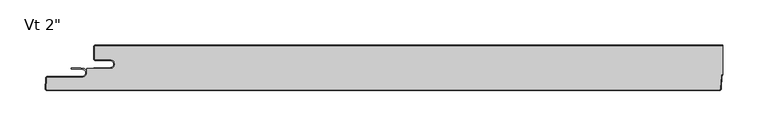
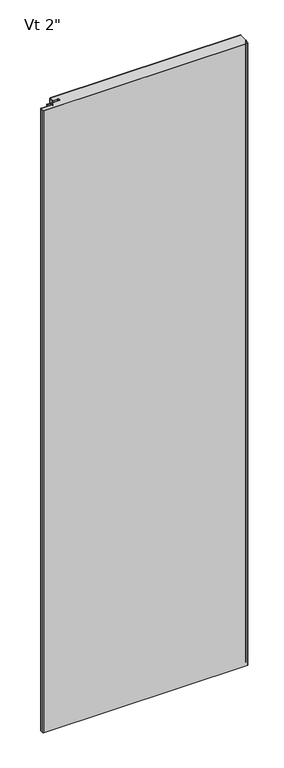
"""IFC4 building model written with IfcOpenShell, lengths in millimetres: plate geometry."""

from ifc_helpers import new_model, si_unit, point, frame_2d, origin, origin_with_axes, place, context, project, spatial, polyline, circle_curve, trimmed, segment, composite_curve, outline, extrude, source, transform, mapped, element, save


def plate_24272428(model_context):
    return source(origin(), model_context, "Body", "SweptSolid", [
        extrude(outline(composite_curve([segment(polyline([(-345.8249998, -1.0), (348.9999998, -1.0), (348.9999998, -32.391556)]), True, "CONTINUOUS"), segment(trimmed(circle_curve(frame_2d((349.5261348, -34.925)), 2.5875), [point((348.9999998, -32.391556))], [point((346.9421809, -34.7895807))], True, "CARTESIAN"), True, "CONTINUOUS"), segment(polyline([(346.9421809, -34.7895807), (346.2241179, -48.491039)]), True, "CONTINUOUS"), segment(trimmed(circle_curve(frame_2d((344.8447608, -48.41875)), 1.38125), [point((346.2241179, -48.491039))], [point((344.8447608, -49.8))], False, "CARTESIAN"), True, "CONTINUOUS"), segment(polyline([(344.8447608, -49.8), (-399.6719359, -49.8)]), True, "CONTINUOUS"), segment(trimmed(circle_curve(frame_2d((-399.6719359, -48.41875)), 1.38125), [point((-399.6719359, -49.8))], [point((-401.051293, -48.346461))], False, "CARTESIAN"), True, "CONTINUOUS"), segment(polyline([(-401.051293, -48.346461), (-400.4689115, -37.233961)]), True, "CONTINUOUS"), segment(trimmed(circle_curve(frame_2d((-399.0895545, -37.30625)), 1.38125), [point((-400.4689115, -37.233961))], [point((-399.0895545, -35.925))], False, "CARTESIAN"), True, "CONTINUOUS"), segment(polyline([(-399.0895545, -35.925), (-360.9062498, -35.925)]), True, "CONTINUOUS"), segment(trimmed(circle_curve(frame_2d((-360.9062498, -30.95625)), 4.96875), [point((-360.9062498, -35.925))], [point((-355.9374998, -30.95625))], True, "CARTESIAN"), True, "CONTINUOUS"), segment(polyline([(-355.9374998, -30.95625), (-355.9374998, -26.4), (-329.9499998, -26.4)]), True, "CONTINUOUS"), segment(trimmed(circle_curve(frame_2d((-329.9499998, -21.43125)), 4.96875), [point((-329.9499998, -26.4))], [point((-329.9499998, -16.4625))], True, "CARTESIAN"), True, "CONTINUOUS"), segment(polyline([(-329.9499998, -16.4625), (-345.8249998, -16.4625)]), True, "CONTINUOUS"), segment(trimmed(circle_curve(frame_2d((-345.8249998, -15.08125)), 1.38125), [point((-345.8249998, -16.4625))], [point((-347.2062498, -15.08125))], False, "CARTESIAN"), True, "CONTINUOUS"), segment(polyline([(-347.2062498, -15.08125), (-347.2062498, -2.38125)]), True, "CONTINUOUS"), segment(trimmed(circle_curve(frame_2d((-345.8249998, -2.38125)), 1.38125), [point((-347.2062498, -2.38125))], [point((-345.8249998, -1.0))], False, "CARTESIAN"), True, "CONTINUOUS")], self_intersect=False)), origin_with_axes(), (0.0, 0.0, 1.0), 2400.0),
        extrude(outline(composite_curve([segment(polyline([(-348.2062498, -25.4), (-329.9499998, -25.4)]), True, "CONTINUOUS"), segment(trimmed(circle_curve(frame_2d((-329.9499998, -21.43125)), 3.96875), [point((-329.9499998, -25.4))], [point((-329.9499998, -17.4625))], True, "CARTESIAN"), True, "CONTINUOUS"), segment(polyline([(-329.9499998, -17.4625), (-345.8249998, -17.4625)]), True, "CONTINUOUS"), segment(trimmed(circle_curve(frame_2d((-345.8249998, -15.08125)), 2.38125), [point((-345.8249998, -17.4625))], [point((-348.2062498, -15.08125))], False, "CARTESIAN"), True, "CONTINUOUS"), segment(polyline([(-348.2062498, -15.08125), (-348.2062498, -2.38125)]), True, "CONTINUOUS"), segment(trimmed(circle_curve(frame_2d((-345.8249998, -2.38125)), 2.38125), [point((-348.2062498, -2.38125))], [point((-345.8249998, 0.0))], False, "CARTESIAN"), True, "CONTINUOUS"), segment(polyline([(-345.8249998, 0.0), (348.9999998, 0.0), (348.9999998, -1.0), (-345.8249998, -1.0)]), True, "CONTINUOUS"), segment(trimmed(circle_curve(frame_2d((-345.8249998, -2.38125)), 1.38125), [point((-345.8249998, -1.0))], [point((-347.2062498, -2.38125))], True, "CARTESIAN"), True, "CONTINUOUS"), segment(polyline([(-347.2062498, -2.38125), (-347.2062498, -15.08125)]), True, "CONTINUOUS"), segment(trimmed(circle_curve(frame_2d((-345.8249998, -15.08125)), 1.38125), [point((-347.2062498, -15.08125))], [point((-345.8249998, -16.4625))], True, "CARTESIAN"), True, "CONTINUOUS"), segment(polyline([(-345.8249998, -16.4625), (-329.9499998, -16.4625)]), True, "CONTINUOUS"), segment(trimmed(circle_curve(frame_2d((-329.9499998, -21.43125)), 4.96875), [point((-329.9499998, -16.4625))], [point((-329.9499998, -26.4))], False, "CARTESIAN"), True, "CONTINUOUS"), segment(polyline([(-329.9499998, -26.4), (-348.2062498, -26.4), (-348.2062498, -25.4)]), True, "CONTINUOUS")], self_intersect=False)), origin_with_axes(), (0.0, 0.0, 1.0), 2400.0),
        extrude(outline(composite_curve([segment(polyline([(-372.2314548, -25.4), (-362.5080173, -25.4), (-362.5080173, -26.19375), (-360.9205173, -25.9875)]), True, "CONTINUOUS"), segment(trimmed(circle_curve(frame_2d((-360.9205173, -30.95625)), 4.96875), [point((-360.9205173, -25.9875))], [point((-360.9205173, -35.925))], False, "CARTESIAN"), True, "CONTINUOUS"), segment(polyline([(-360.9205173, -35.925), (-399.1038219, -35.925)]), True, "CONTINUOUS"), segment(trimmed(circle_curve(frame_2d((-399.1038219, -37.30625)), 1.38125), [point((-399.1038219, -35.925))], [point((-400.483179, -37.233961))], True, "CARTESIAN"), True, "CONTINUOUS"), segment(polyline([(-400.483179, -37.233961), (-401.0655604, -48.346461)]), True, "CONTINUOUS"), segment(trimmed(circle_curve(frame_2d((-399.6862034, -48.41875)), 1.38125), [point((-401.0655604, -48.346461))], [point((-399.6862034, -49.8))], True, "CARTESIAN"), True, "CONTINUOUS"), segment(polyline([(-399.6862034, -49.8), (344.8447608, -49.8)]), True, "CONTINUOUS"), segment(trimmed(circle_curve(frame_2d((344.8447608, -48.41875)), 1.38125), [point((344.8447608, -49.8))], [point((346.2241179, -48.491039))], True, "CARTESIAN"), True, "CONTINUOUS"), segment(polyline([(346.2241179, -48.491039), (346.9421809, -34.7895807)]), True, "CONTINUOUS"), segment(trimmed(circle_curve(frame_2d((349.5261348, -34.925)), 2.5875), [point((346.9421809, -34.7895807))], [point((348.9999998, -32.391556))], False, "CARTESIAN"), True, "CONTINUOUS"), segment(polyline([(348.9999998, -32.391556), (348.9999998, -33.4272222)]), True, "CONTINUOUS"), segment(trimmed(circle_curve(frame_2d((349.5261348, -34.925)), 1.5875), [point((348.9999998, -33.4272222))], [point((347.9408104, -34.8419167))], True, "CARTESIAN"), True, "CONTINUOUS"), segment(polyline([(347.9408104, -34.8419167), (347.2227474, -48.543375)]), True, "CONTINUOUS"), segment(trimmed(circle_curve(frame_2d((344.8447608, -48.41875)), 2.38125), [point((347.2227474, -48.543375))], [point((344.8447608, -50.8))], False, "CARTESIAN"), True, "CONTINUOUS"), segment(polyline([(344.8447608, -50.8), (-399.6862034, -50.8)]), True, "CONTINUOUS"), segment(trimmed(circle_curve(frame_2d((-399.6862034, -48.41875)), 2.38125), [point((-399.6862034, -50.8))], [point((-402.0641899, -48.294125))], False, "CARTESIAN"), True, "CONTINUOUS"), segment(polyline([(-402.0641899, -48.294125), (-401.4818085, -37.181625)]), True, "CONTINUOUS"), segment(trimmed(circle_curve(frame_2d((-399.1038219, -37.30625)), 2.38125), [point((-401.4818085, -37.181625))], [point((-399.1038219, -34.925))], False, "CARTESIAN"), True, "CONTINUOUS"), segment(polyline([(-399.1038219, -34.925), (-360.9205173, -34.925)]), True, "CONTINUOUS"), segment(trimmed(circle_curve(frame_2d((-360.9205173, -30.95625)), 3.96875), [point((-360.9205173, -34.925))], [point((-360.9205173, -26.9875))], True, "CARTESIAN"), True, "CONTINUOUS"), segment(polyline([(-360.9205173, -26.9875), (-372.2314548, -26.9875)]), True, "CONTINUOUS"), segment(trimmed(circle_curve(frame_2d((-372.2314548, -26.19375)), 0.79375), [point((-372.2314548, -26.9875))], [point((-372.2314548, -25.4))], False, "CARTESIAN"), True, "CONTINUOUS")], self_intersect=False)), origin_with_axes(), (0.0, 0.0, 1.0), 2400.0),
    ])


if __name__ == "__main__":
    model = new_model("IFC4")
    model_context = context("Model", 3, world=origin())
    ifc_project = project(units=[si_unit("LENGTHUNIT", "METRE", prefix="MILLI")], contexts=[model_context])
    site = spatial("IfcSite", under=ifc_project)
    building = spatial("IfcBuilding", under=site)
    placement = place(None, origin())
    plate_shape = plate_24272428(model_context)
    element("IfcPlate", 1, ObjectType="KIP-30-DWHR-R19-CP-Vt-F : Vt 2\"", at=placement, inside=building, context=model_context, shape_type="MappedRepresentation", body=[
        mapped(plate_shape, transform((0.0, 0.0, 0.0), x_axis=(1.0, 0.0, 0.0), y_axis=(0.0, 1.0, 0.0), z_axis=(0.0, 0.0, 1.0))),
    ])
    save(model, "model.ifc")
